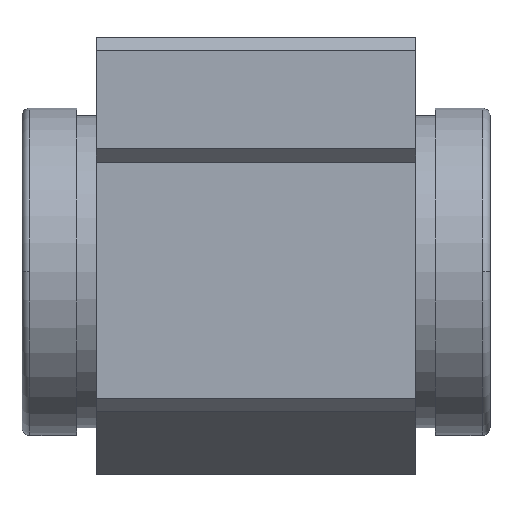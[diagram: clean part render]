
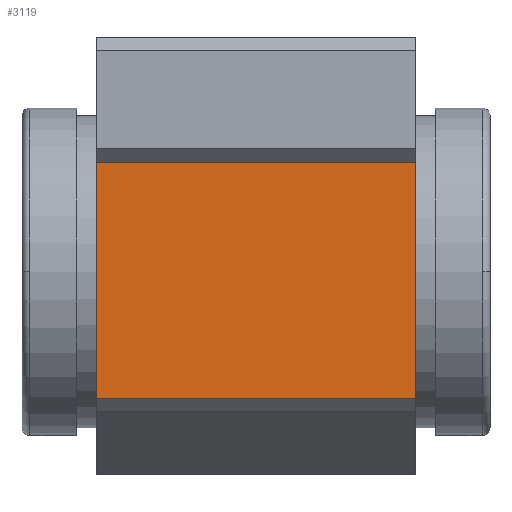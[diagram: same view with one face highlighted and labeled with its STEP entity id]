
A CAD part, top view. The second image highlights one B-rep face of the part: STEP entity #3119.
In plain terms, the highlighted planar face has unit normal (0, 0, 1).
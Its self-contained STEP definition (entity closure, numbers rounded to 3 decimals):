
#859 = PLANE('',#860);
#860 = AXIS2_PLACEMENT_3D('',#861,#862,#863);
#861 = CARTESIAN_POINT('',(10.25,2.493,0.));
#862 = DIRECTION('',(1.,0.,0.));
#863 = DIRECTION('',(0.,0.,-1.));
#975 = PLANE('',#976);
#976 = AXIS2_PLACEMENT_3D('',#977,#978,#979);
#977 = CARTESIAN_POINT('',(-10.25,2.493,0.));
#978 = DIRECTION('',(1.,0.,0.));
#979 = DIRECTION('',(0.,0.,-1.));
#3010 = PLANE('',#3011);
#3011 = AXIS2_PLACEMENT_3D('',#3012,#3013,#3014);
#3012 = CARTESIAN_POINT('',(-10.25,-8.58,19.74));
#3013 = DIRECTION('',(0.,-0.707,0.707)
  );
#3014 = DIRECTION('',(0.,-0.707,-0.707)
  );
#3048 = VERTEX_POINT('',#3049);
#3049 = CARTESIAN_POINT('',(10.25,-8.16,20.16));
#3070 = EDGE_CURVE('',#3071,#3048,#3073,.T.);
#3071 = VERTEX_POINT('',#3072);
#3072 = CARTESIAN_POINT('',(-10.25,-8.16,20.16));
#3073 = SURFACE_CURVE('',#3074,(#3078,#3085),.PCURVE_S1.);
#3074 = LINE('',#3075,#3076);
#3075 = CARTESIAN_POINT('',(-10.25,-8.16,20.16));
#3076 = VECTOR('',#3077,1.);
#3077 = DIRECTION('',(1.,0.,0.));
#3078 = PCURVE('',#3010,#3079);
#3079 = DEFINITIONAL_REPRESENTATION('',(#3080),#3084);
#3080 = LINE('',#3081,#3082);
#3081 = CARTESIAN_POINT('',(-0.594,0.));
#3082 = VECTOR('',#3083,1.);
#3083 = DIRECTION('',(0.,1.));
#3084 = ( GEOMETRIC_REPRESENTATION_CONTEXT(2) 
PARAMETRIC_REPRESENTATION_CONTEXT() REPRESENTATION_CONTEXT('2D SPACE',''
  ) );
#3085 = PCURVE('',#3086,#3091);
#3086 = PLANE('',#3087);
#3087 = AXIS2_PLACEMENT_3D('',#3088,#3089,#3090);
#3088 = CARTESIAN_POINT('',(-10.25,-0.58,20.16));
#3089 = DIRECTION('',(0.,0.,1.));
#3090 = DIRECTION('',(0.,-1.,0.));
#3091 = DEFINITIONAL_REPRESENTATION('',(#3092),#3096);
#3092 = LINE('',#3093,#3094);
#3093 = CARTESIAN_POINT('',(7.58,0.));
#3094 = VECTOR('',#3095,1.);
#3095 = DIRECTION('',(0.,1.));
#3096 = ( GEOMETRIC_REPRESENTATION_CONTEXT(2) 
PARAMETRIC_REPRESENTATION_CONTEXT() REPRESENTATION_CONTEXT('2D SPACE',''
  ) );
#3119 = ADVANCED_FACE('',(#3120),#3086,.T.);
#3120 = FACE_BOUND('',#3121,.T.);
#3121 = EDGE_LOOP('',(#3122,#3145,#3173,#3194));
#3122 = ORIENTED_EDGE('',*,*,#3123,.T.);
#3123 = EDGE_CURVE('',#3048,#3124,#3126,.T.);
#3124 = VERTEX_POINT('',#3125);
#3125 = CARTESIAN_POINT('',(10.25,7.,20.16));
#3126 = SURFACE_CURVE('',#3127,(#3131,#3138),.PCURVE_S1.);
#3127 = LINE('',#3128,#3129);
#3128 = CARTESIAN_POINT('',(10.25,7.,20.16));
#3129 = VECTOR('',#3130,1.);
#3130 = DIRECTION('',(0.,1.,0.));
#3131 = PCURVE('',#3086,#3132);
#3132 = DEFINITIONAL_REPRESENTATION('',(#3133),#3137);
#3133 = LINE('',#3134,#3135);
#3134 = CARTESIAN_POINT('',(-7.58,20.5));
#3135 = VECTOR('',#3136,1.);
#3136 = DIRECTION('',(-1.,0.));
#3137 = ( GEOMETRIC_REPRESENTATION_CONTEXT(2) 
PARAMETRIC_REPRESENTATION_CONTEXT() REPRESENTATION_CONTEXT('2D SPACE',''
  ) );
#3138 = PCURVE('',#859,#3139);
#3139 = DEFINITIONAL_REPRESENTATION('',(#3140),#3144);
#3140 = LINE('',#3141,#3142);
#3141 = CARTESIAN_POINT('',(-20.16,4.507));
#3142 = VECTOR('',#3143,1.);
#3143 = DIRECTION('',(0.,1.));
#3144 = ( GEOMETRIC_REPRESENTATION_CONTEXT(2) 
PARAMETRIC_REPRESENTATION_CONTEXT() REPRESENTATION_CONTEXT('2D SPACE',''
  ) );
#3145 = ORIENTED_EDGE('',*,*,#3146,.F.);
#3146 = EDGE_CURVE('',#3147,#3124,#3149,.T.);
#3147 = VERTEX_POINT('',#3148);
#3148 = CARTESIAN_POINT('',(-10.25,7.,20.16));
#3149 = SURFACE_CURVE('',#3150,(#3154,#3161),.PCURVE_S1.);
#3150 = LINE('',#3151,#3152);
#3151 = CARTESIAN_POINT('',(-10.25,7.,20.16));
#3152 = VECTOR('',#3153,1.);
#3153 = DIRECTION('',(1.,0.,0.));
#3154 = PCURVE('',#3086,#3155);
#3155 = DEFINITIONAL_REPRESENTATION('',(#3156),#3160);
#3156 = LINE('',#3157,#3158);
#3157 = CARTESIAN_POINT('',(-7.58,0.));
#3158 = VECTOR('',#3159,1.);
#3159 = DIRECTION('',(0.,1.));
#3160 = ( GEOMETRIC_REPRESENTATION_CONTEXT(2) 
PARAMETRIC_REPRESENTATION_CONTEXT() REPRESENTATION_CONTEXT('2D SPACE',''
  ) );
#3161 = PCURVE('',#3162,#3167);
#3162 = PLANE('',#3163);
#3163 = AXIS2_PLACEMENT_3D('',#3164,#3165,#3166);
#3164 = CARTESIAN_POINT('',(-10.25,7.42,20.58));
#3165 = DIRECTION('',(0.,-0.707,0.707)
  );
#3166 = DIRECTION('',(0.,-0.707,-0.707)
  );
#3167 = DEFINITIONAL_REPRESENTATION('',(#3168),#3172);
#3168 = LINE('',#3169,#3170);
#3169 = CARTESIAN_POINT('',(0.594,0.));
#3170 = VECTOR('',#3171,1.);
#3171 = DIRECTION('',(0.,1.));
#3172 = ( GEOMETRIC_REPRESENTATION_CONTEXT(2) 
PARAMETRIC_REPRESENTATION_CONTEXT() REPRESENTATION_CONTEXT('2D SPACE',''
  ) );
#3173 = ORIENTED_EDGE('',*,*,#3174,.T.);
#3174 = EDGE_CURVE('',#3147,#3071,#3175,.T.);
#3175 = SURFACE_CURVE('',#3176,(#3180,#3187),.PCURVE_S1.);
#3176 = LINE('',#3177,#3178);
#3177 = CARTESIAN_POINT('',(-10.25,7.,20.16));
#3178 = VECTOR('',#3179,1.);
#3179 = DIRECTION('',(0.,-1.,0.));
#3180 = PCURVE('',#3086,#3181);
#3181 = DEFINITIONAL_REPRESENTATION('',(#3182),#3186);
#3182 = LINE('',#3183,#3184);
#3183 = CARTESIAN_POINT('',(-7.58,0.));
#3184 = VECTOR('',#3185,1.);
#3185 = DIRECTION('',(1.,0.));
#3186 = ( GEOMETRIC_REPRESENTATION_CONTEXT(2) 
PARAMETRIC_REPRESENTATION_CONTEXT() REPRESENTATION_CONTEXT('2D SPACE',''
  ) );
#3187 = PCURVE('',#975,#3188);
#3188 = DEFINITIONAL_REPRESENTATION('',(#3189),#3193);
#3189 = LINE('',#3190,#3191);
#3190 = CARTESIAN_POINT('',(-20.16,4.507));
#3191 = VECTOR('',#3192,1.);
#3192 = DIRECTION('',(0.,-1.));
#3193 = ( GEOMETRIC_REPRESENTATION_CONTEXT(2) 
PARAMETRIC_REPRESENTATION_CONTEXT() REPRESENTATION_CONTEXT('2D SPACE',''
  ) );
#3194 = ORIENTED_EDGE('',*,*,#3070,.T.);
